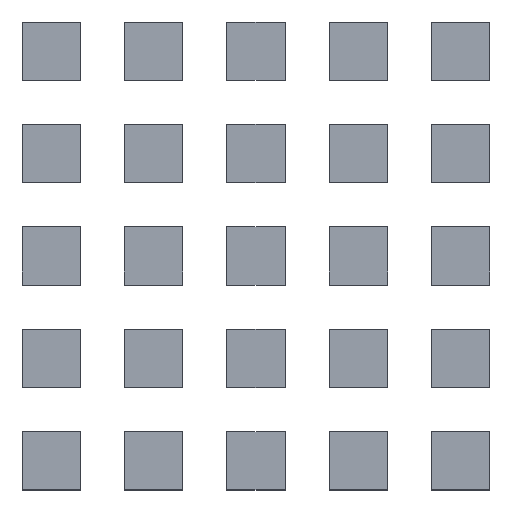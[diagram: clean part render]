
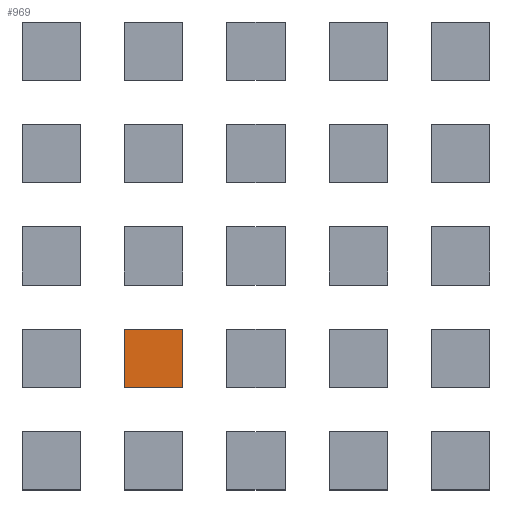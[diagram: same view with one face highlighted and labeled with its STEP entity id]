
A CAD part, top view. The second image highlights one B-rep face of the part: STEP entity #969.
In plain terms, the highlighted free-form (B-spline) face has degree [1, 1] with [2, 2] control points.
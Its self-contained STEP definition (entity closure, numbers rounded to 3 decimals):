
#852 = VERTEX_POINT('',#853);
#853 = CARTESIAN_POINT('',(-11.3,-11.3,6.4));
#866 = VERTEX_POINT('',#867);
#867 = CARTESIAN_POINT('',(-11.3,-6.3,6.4));
#872 = EDGE_CURVE('',#852,#866,#873,.T.);
#873 = B_SPLINE_CURVE_WITH_KNOTS('',1,(#874,#875),.UNSPECIFIED.,.F.,.F.,
  (2,2),(0.,5.),.PIECEWISE_BEZIER_KNOTS.);
#874 = CARTESIAN_POINT('',(-11.3,-11.3,6.4));
#875 = CARTESIAN_POINT('',(-11.3,-6.3,6.4));
#888 = VERTEX_POINT('',#889);
#889 = CARTESIAN_POINT('',(-6.3,-11.3,6.4));
#902 = VERTEX_POINT('',#903);
#903 = CARTESIAN_POINT('',(-6.3,-6.3,6.4));
#908 = EDGE_CURVE('',#888,#902,#909,.T.);
#909 = B_SPLINE_CURVE_WITH_KNOTS('',1,(#910,#911),.UNSPECIFIED.,.F.,.F.,
  (2,2),(0.,5.),.PIECEWISE_BEZIER_KNOTS.);
#910 = CARTESIAN_POINT('',(-6.3,-11.3,6.4));
#911 = CARTESIAN_POINT('',(-6.3,-6.3,6.4));
#927 = EDGE_CURVE('',#852,#888,#928,.T.);
#928 = B_SPLINE_CURVE_WITH_KNOTS('',1,(#929,#930),.UNSPECIFIED.,.F.,.F.,
  (2,2),(0.,5.),.PIECEWISE_BEZIER_KNOTS.);
#929 = CARTESIAN_POINT('',(-11.3,-11.3,6.4));
#930 = CARTESIAN_POINT('',(-6.3,-11.3,6.4));
#947 = EDGE_CURVE('',#866,#902,#948,.T.);
#948 = B_SPLINE_CURVE_WITH_KNOTS('',1,(#949,#950),.UNSPECIFIED.,.F.,.F.,
  (2,2),(0.,5.),.PIECEWISE_BEZIER_KNOTS.);
#949 = CARTESIAN_POINT('',(-11.3,-6.3,6.4));
#950 = CARTESIAN_POINT('',(-6.3,-6.3,6.4));
#969 = ADVANCED_FACE('',(#970),#976,.T.);
#970 = FACE_BOUND('',#971,.T.);
#971 = EDGE_LOOP('',(#972,#973,#974,#975));
#972 = ORIENTED_EDGE('',*,*,#872,.F.);
#973 = ORIENTED_EDGE('',*,*,#927,.T.);
#974 = ORIENTED_EDGE('',*,*,#908,.T.);
#975 = ORIENTED_EDGE('',*,*,#947,.F.);
#976 = B_SPLINE_SURFACE_WITH_KNOTS('',1,1,(
    (#977,#978)
    ,(#979,#980)),.UNSPECIFIED.,.F.,.F.,.F.,(2,2),(2,2),(0.,5.),(0.,5.),
  .PIECEWISE_BEZIER_KNOTS.);
#977 = CARTESIAN_POINT('',(-11.3,-11.3,6.4));
#978 = CARTESIAN_POINT('',(-11.3,-6.3,6.4));
#979 = CARTESIAN_POINT('',(-6.3,-11.3,6.4));
#980 = CARTESIAN_POINT('',(-6.3,-6.3,6.4));
